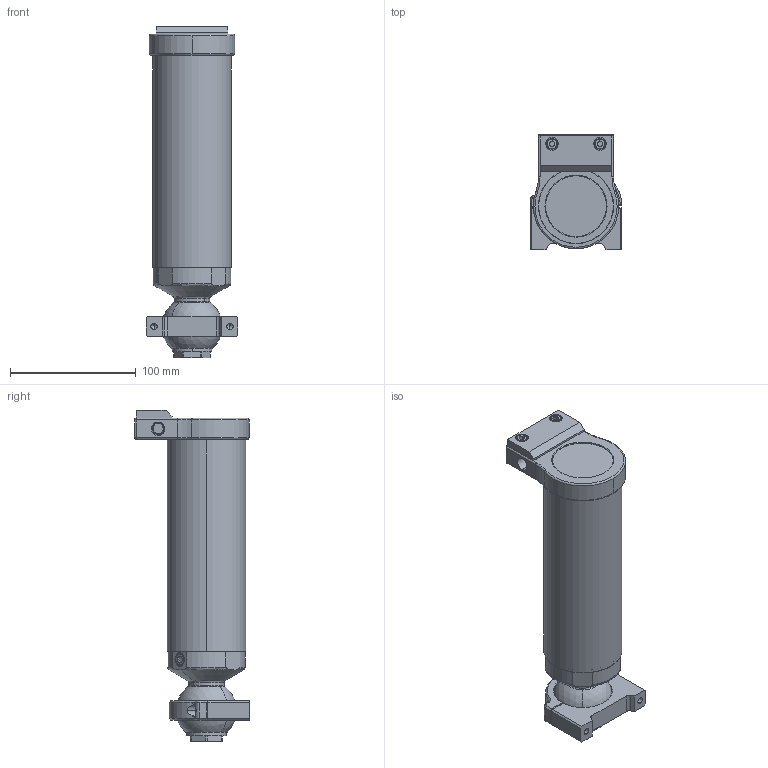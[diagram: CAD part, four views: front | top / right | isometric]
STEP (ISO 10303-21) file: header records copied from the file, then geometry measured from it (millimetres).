
FILE_DESCRIPTION (( 'STEP AP203' ), '1' );
FILE_NAME ('24C-DV.STEP', '2021-10-13T18:00:42', ( '' ), ( '' ), 'SwSTEP 2.0', 'SolidWorks 2021', '' );
FILE_SCHEMA (( 'CONFIG_CONTROL_DESIGN' ));
Length unit declared in the file: inch
Products named in the file (17): 200395; 200317; 500119; 24C-DV; 200393; 400118; 200394; 200398; 200396; 91292A108_91292A108; 9452K141_Expanded; 200280; 91292A125_91292A125; 200397; 4452K541; PG21-I01; 400119
Assembly tree (23 placements, depth 2):
  24C-DV
    200317
    200280
    200393
    200394
    200395
    200397
    200396
    200398
    400118
    400119
    500119
    PG21-I01
    4452K541  x3
    9452K141_Expanded
    91292A125_91292A125  x4
    91292A108_91292A108  x3
Bounding box: 73.02 x 91.2 x 263.37 mm (x, y, z)
Volume: 305391.9 mm3; surface area: 162111.5 mm2
Topology: 24 solids, 24 shells, 2408 faces, 6517 edges, 4263 vertices
Faces by surface type: plane 852, cylinder 725, bspline 549, cone 254, torus 21, sphere 7
Entity records: 71049 total; most frequent: CARTESIAN_POINT 25090, ORIENTED_EDGE 10218, DIRECTION 7259, EDGE_CURVE 5109, VERTEX_POINT 3354, VECTOR 2847, LINE 2847, AXIS2_PLACEMENT_3D 2206
